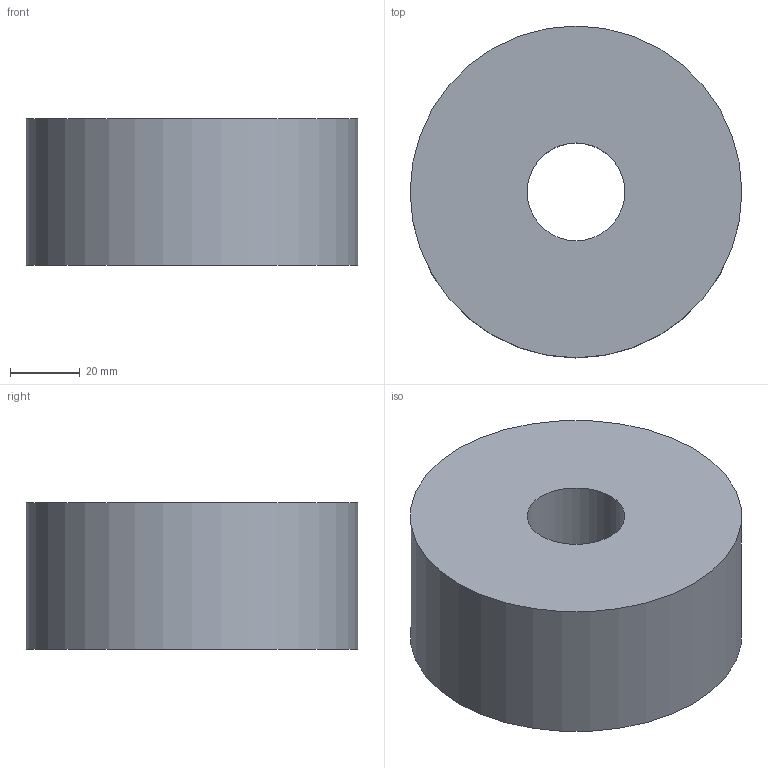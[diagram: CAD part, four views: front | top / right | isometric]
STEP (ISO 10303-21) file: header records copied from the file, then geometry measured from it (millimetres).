
FILE_DESCRIPTION(('FreeCAD Model'),'2;1');
FILE_NAME('Open CASCADE Shape Model','2024-12-17T10:17:33',('Author'),( ''),'Open CASCADE STEP processor 7.8','FreeCAD','Unknown');
FILE_SCHEMA(('AUTOMOTIVE_DESIGN { 1 0 10303 214 1 1 1 1 }'));
Length unit declared in the file: millimetre
Products named in the file (1): Body
Bounding box: 95 x 95 x 42 mm (x, y, z)
Volume: 271843.6 mm3; surface area: 29174.4 mm2
Topology: 1 solids, 1 shells, 4 faces, 6 edges, 4 vertices
Faces by surface type: cylinder 2, plane 2
Full cylindrical faces by diameter (mm): 28 x1, 95 x1
Entity records: 198 total; most frequent: DIRECTION 32, CARTESIAN_POINT 27, ORIENTED_EDGE 12, PCURVE 12, DEFINITIONAL_REPRESENTATION 12, LINE 10, VECTOR 10, AXIS2_PLACEMENT_3D 9
